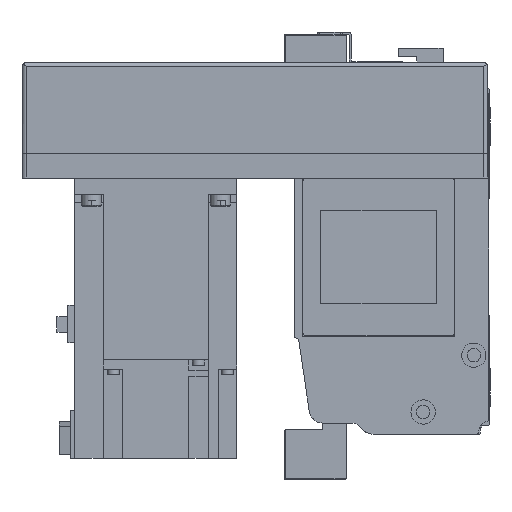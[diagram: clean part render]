
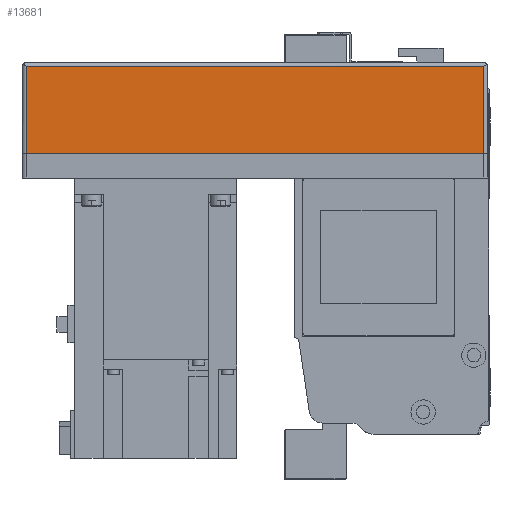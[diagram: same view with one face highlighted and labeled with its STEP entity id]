
A CAD part, left-side view. The second image highlights one B-rep face of the part: STEP entity #13681.
In plain terms, the highlighted planar face has unit normal (-1, 0, 0) as drawn and (0, 1, 0) by its records, which use the part's own axes.
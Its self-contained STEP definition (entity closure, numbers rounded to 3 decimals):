
#2472=ORIENTED_EDGE('',*,*,#5692,.F.);
#2473=ORIENTED_EDGE('',*,*,#5632,.T.);
#2474=ORIENTED_EDGE('',*,*,#5693,.F.);
#2475=ORIENTED_EDGE('',*,*,#5627,.F.);
#5627=EDGE_CURVE('',#7386,#7387,#8820,.T.);
#5632=EDGE_CURVE('',#7392,#7391,#8822,.T.);
#5692=EDGE_CURVE('',#7392,#7386,#8865,.T.);
#5693=EDGE_CURVE('',#7387,#7391,#8866,.T.);
#7386=VERTEX_POINT('',#21388);
#7387=VERTEX_POINT('',#21390);
#7391=VERTEX_POINT('',#21399);
#7392=VERTEX_POINT('',#21401);
#8820=LINE('',#21389,#10133);
#8822=LINE('',#21400,#10135);
#8865=LINE('',#21523,#10178);
#8866=LINE('',#21524,#10179);
#10133=VECTOR('',#17097,1000.);
#10135=VECTOR('',#17107,1000.);
#10178=VECTOR('',#17228,1000.);
#10179=VECTOR('',#17229,1000.);
#11286=EDGE_LOOP('',(#2472,#2473,#2474,#2475));
#12277=FACE_BOUND('',#11286,.T.);
#13100=PLANE('',#14696);
#13681=ADVANCED_FACE('',(#12277),#13100,.T.);
#14696=AXIS2_PLACEMENT_3D('',#21522,#17226,#17227);
#17097=DIRECTION('',(0.,0.,1.));
#17107=DIRECTION('',(0.,0.,1.));
#17226=DIRECTION('',(0.,1.,0.));
#17227=DIRECTION('',(0.,0.,1.));
#17228=DIRECTION('',(1.,0.,0.));
#17229=DIRECTION('',(-1.,0.,0.));
#21388=CARTESIAN_POINT('',(-2.,54.,-55.));
#21389=CARTESIAN_POINT('',(-2.,54.,-57.));
#21390=CARTESIAN_POINT('',(-2.,54.,-12.));
#21399=CARTESIAN_POINT('',(-228.,54.,-12.));
#21400=CARTESIAN_POINT('',(-228.,54.,-57.));
#21401=CARTESIAN_POINT('',(-228.,54.,-55.));
#21522=CARTESIAN_POINT('',(-2.,54.,-57.));
#21523=CARTESIAN_POINT('',(-230.,54.,-55.));
#21524=CARTESIAN_POINT('',(-2.,54.,-12.));
